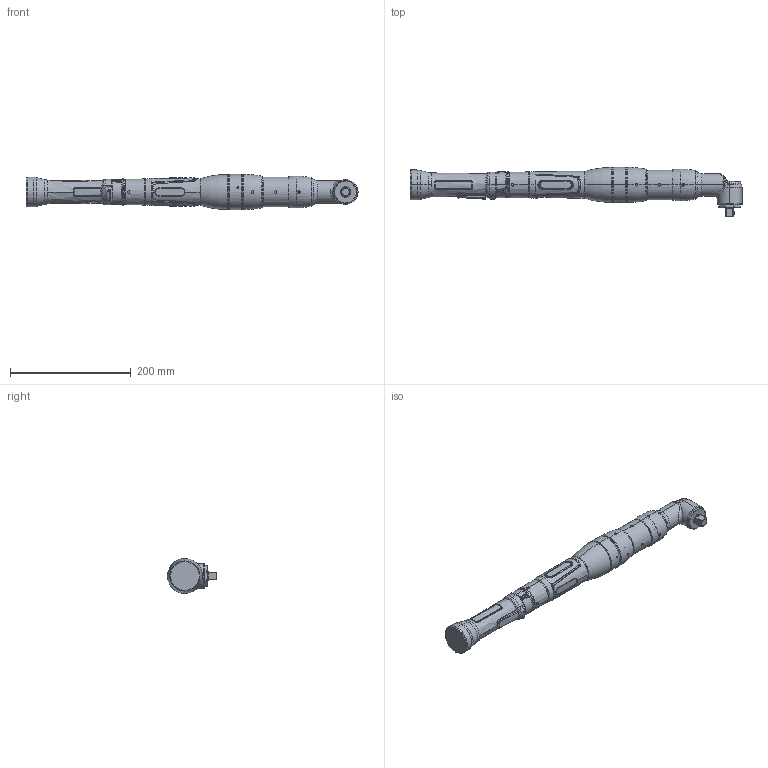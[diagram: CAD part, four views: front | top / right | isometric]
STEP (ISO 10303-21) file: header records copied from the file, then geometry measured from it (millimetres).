
FILE_DESCRIPTION (( 'STEP AP214' ), '1' );
FILE_NAME ('70259988_HSX2100WV12GF.STEP', '2026-03-17T10:02:00', ( '' ), ( '' ), 'SwSTEP 2.0', 'SolidWorks 2020', '' );
FILE_SCHEMA (( 'AUTOMOTIVE_DESIGN' ));
Length unit declared in the file: millimetre
Products named in the file (5): 70079657; 70259988_HSX2100WV12GF; 70058296; 70086960; 70058286
Assembly tree (4 placements, depth 2):
  70259988_HSX2100WV12GF
    70086960
    70058286
    70079657
    70058296
Bounding box: 549.2 x 81.5 x 58 mm (x, y, z)
Volume: 900752.2 mm3; surface area: 128826.8 mm2
Topology: 4 solids, 4 shells, 1349 faces, 3345 edges, 2067 vertices
Faces by surface type: cylinder 384, plane 363, bspline 275, cone 206, torus 116, sphere 5
Entity records: 55698 total; most frequent: CARTESIAN_POINT 26085, ORIENTED_EDGE 6674, DIRECTION 5468, EDGE_CURVE 3337, AXIS2_PLACEMENT_3D 2223, VERTEX_POINT 2067, EDGE_LOOP 1430, FACE_OUTER_BOUND 1349
